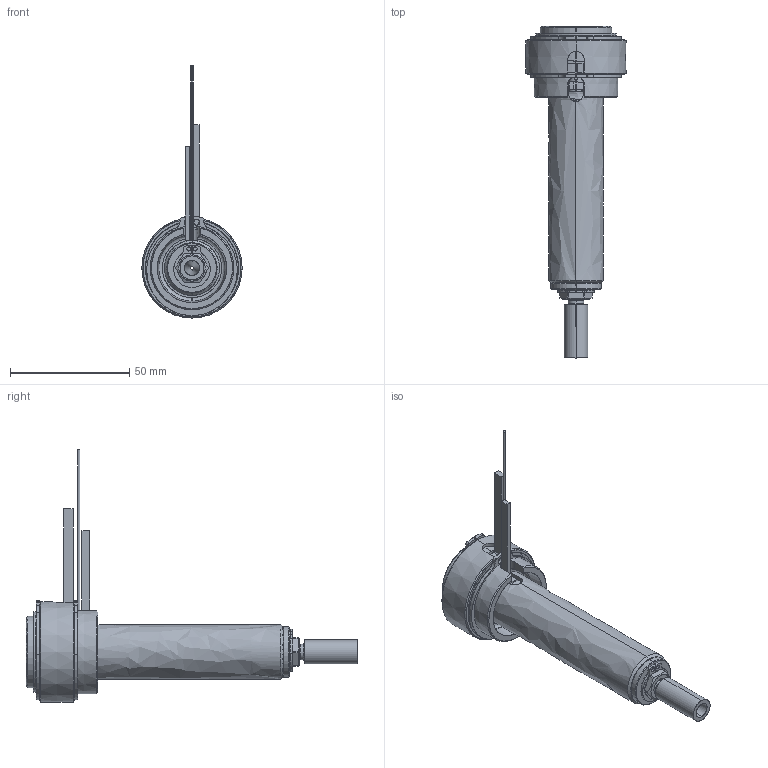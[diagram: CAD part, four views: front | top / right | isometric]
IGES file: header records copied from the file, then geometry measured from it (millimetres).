
Start section: SolidWorks IGES file using analytic representation for surfaces
Global section: file name: C:\Users\luca.EMPAD\Desktop\TEM\UGBE3502-M-A-P-5 [Ød-1.5 P-20 ØC-7.0].IGS; native system: SolidWorks 2012; preprocessor: SolidWorks 2012; author: luca; date: 120330.140419; units: millimetre
Bounding box: 42 x 139 x 105.6 mm (x, y, z)
Surface area: 32699.1 mm2 (no closed solid volume)
Topology: 0 solids, 0 shells, 178 faces, 3196 edges, 3196 vertices
Faces by surface type: revolution 113, bspline 65
